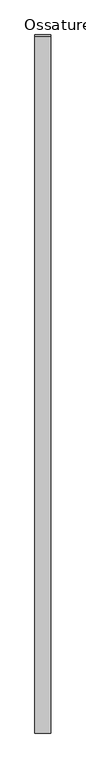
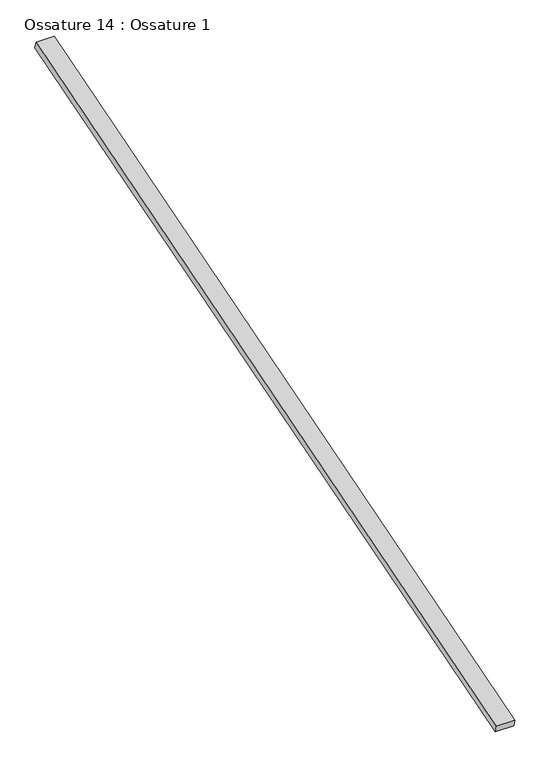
"""IFC4 building model written with IfcOpenShell, lengths in millimetres: beam geometry, Ossature 14 : Ossature 1."""

from ifc_helpers import new_model, si_unit, frame, origin, place, context, project, spatial, polyline, outline, extrude, source, transform, mapped, element, save


def ossature_14_ossature_1_8c9e8282(model_context):
    return source(origin(), model_context, "Body", "SweptSolid", [
        extrude(outline(polyline([(0.0, 0.0), (0.0, -4543.0299679), (-100.0, -4543.0299679), (-100.0, 0.0), (0.0, 0.0)])), frame((3644.8466393, -833.3913565, 8153.6336115), z_axis=(0.0, -0.28734788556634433, 0.9578262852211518), x_axis=(-1.0, 0.0, 0.0)), (0.0, 0.0, 1.0), 40.0),
    ])


if __name__ == "__main__":
    model = new_model("IFC4")
    model_context = context("Model", 3, world=origin())
    ifc_project = project(units=[si_unit("LENGTHUNIT", "METRE", prefix="MILLI")], contexts=[model_context])
    site = spatial("IfcSite", under=ifc_project)
    building = spatial("IfcBuilding", under=site)
    placement = place(None, origin())
    ossature_14_ossature_1_shape = ossature_14_ossature_1_8c9e8282(model_context)
    element("IfcBeam", 1, ObjectType="Ossature 14 : Ossature 1", at=placement, inside=building, context=model_context, shape_type="MappedRepresentation", body=[
        mapped(ossature_14_ossature_1_shape, transform((0.0, 0.0, 0.0), x_axis=(1.0, 0.0, 0.0), y_axis=(0.0, 1.0, 0.0), z_axis=(0.0, 0.0, 1.0))),
    ])
    save(model, "model.ifc")
